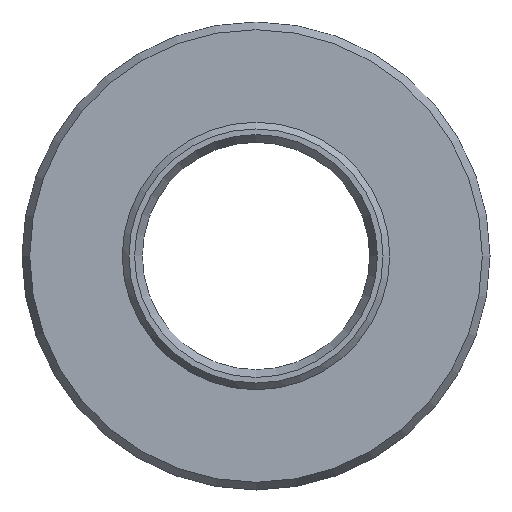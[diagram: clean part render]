
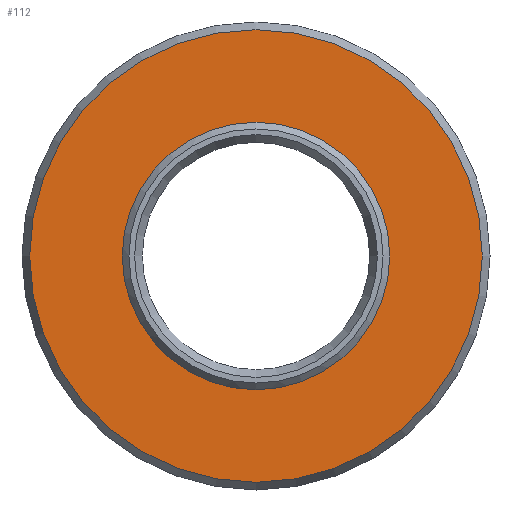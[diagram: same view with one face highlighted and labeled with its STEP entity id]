
A CAD part, left-side view. The second image highlights one B-rep face of the part: STEP entity #112.
In plain terms, the highlighted planar face has unit normal (-1, 0, 0).
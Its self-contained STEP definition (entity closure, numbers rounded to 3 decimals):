
#107=PLANE('',#279);
#112=ADVANCED_FACE('',(#131,#132),#107,.T.);
#131=FACE_BOUND('',#163,.T.);
#132=FACE_BOUND('',#164,.T.);
#163=EDGE_LOOP('',(#195));
#164=EDGE_LOOP('',(#196));
#195=ORIENTED_EDGE('',*,*,#243,.T.);
#196=ORIENTED_EDGE('',*,*,#244,.T.);
#227=VERTEX_POINT('',#379);
#228=VERTEX_POINT('',#381);
#243=EDGE_CURVE('',#227,#227,#259,.T.);
#244=EDGE_CURVE('',#228,#228,#260,.T.);
#259=CIRCLE('',#277,16.923);
#260=CIRCLE('',#278,10.);
#277=AXIS2_PLACEMENT_3D('',#378,#314,#315);
#278=AXIS2_PLACEMENT_3D('',#380,#316,#317);
#279=AXIS2_PLACEMENT_3D('',#382,#318,#319);
#314=DIRECTION('',(-1.,0.,0.));
#315=DIRECTION('',(0.,0.,1.));
#316=DIRECTION('',(1.,0.,0.));
#317=DIRECTION('',(0.,0.,-1.));
#318=DIRECTION('',(-1.,0.,0.));
#319=DIRECTION('',(0.,0.,1.));
#378=CARTESIAN_POINT('',(0.,0.,0.));
#379=CARTESIAN_POINT('',(0.,0.,16.923));
#380=CARTESIAN_POINT('',(0.,0.,0.));
#381=CARTESIAN_POINT('',(0.,0.,-10.));
#382=CARTESIAN_POINT('',(0.,17.5,0.));
